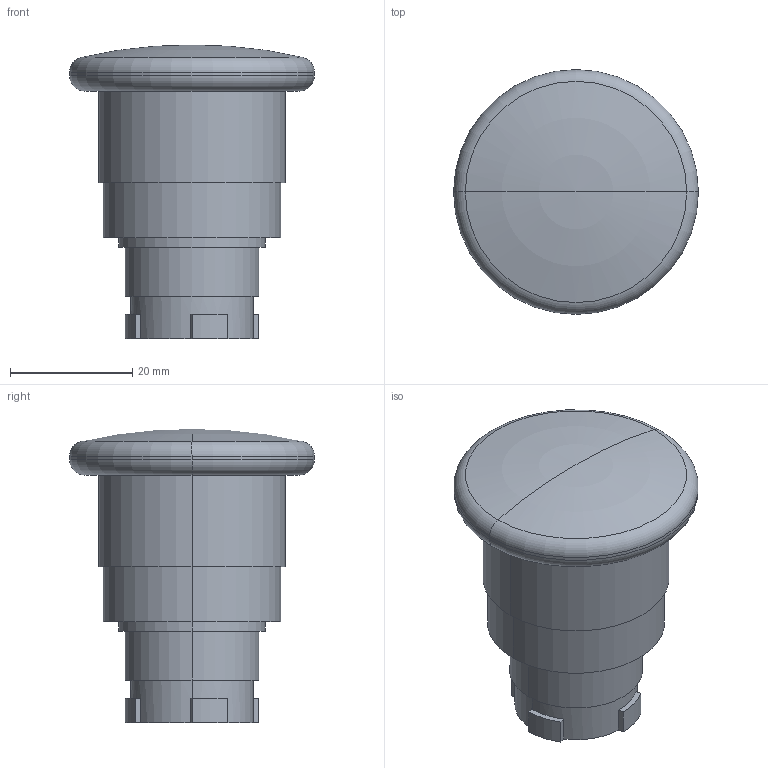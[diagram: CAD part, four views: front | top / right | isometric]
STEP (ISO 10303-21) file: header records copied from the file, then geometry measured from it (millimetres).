
FILE_DESCRIPTION (( 'STEP AP214' ), '1' );
FILE_NAME ('3D 斁麧錪 MTB2-BC4.STEP', '2017-04-19T10:58:43', ( 'adm' ), ( 'MICROSOFT' ), 'SwSTEP 2.0', 'SolidWorks 2011', '' );
FILE_SCHEMA (( 'AUTOMOTIVE_DESIGN' ));
Length unit declared in the file: millimetre
Products named in the file (1): 3D 斁麧錪 MTB2-BC4
Bounding box: 40 x 40 x 48 mm (x, y, z)
Volume: 29862.4 mm3; surface area: 7694.5 mm2
Topology: 1 solids, 2 shells, 71 faces, 168 edges, 109 vertices
Faces by surface type: plane 37, cylinder 28, torus 6
Entity records: 2871 total; most frequent: DIRECTION 384, CARTESIAN_POINT 347, ORIENTED_EDGE 332, EDGE_CURVE 166, AXIS2_PLACEMENT_3D 146, VERTEX_POINT 109, VECTOR 92, LINE 92
